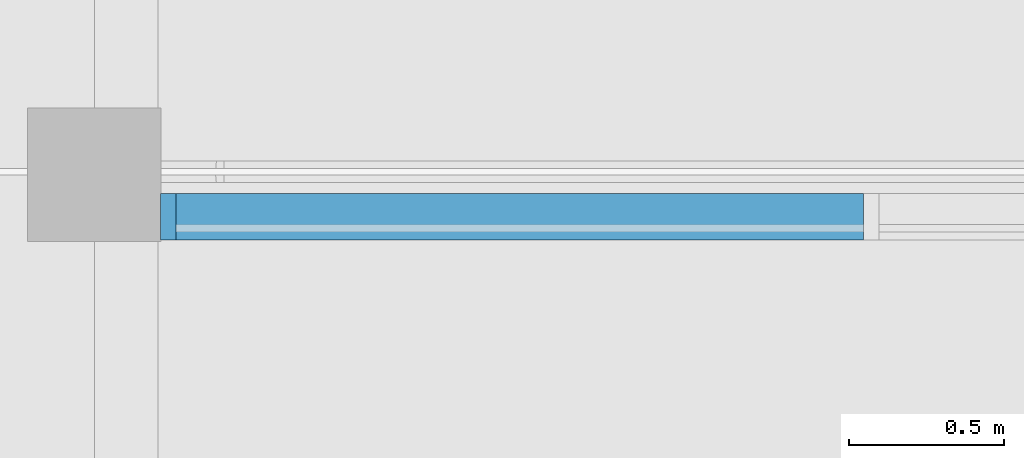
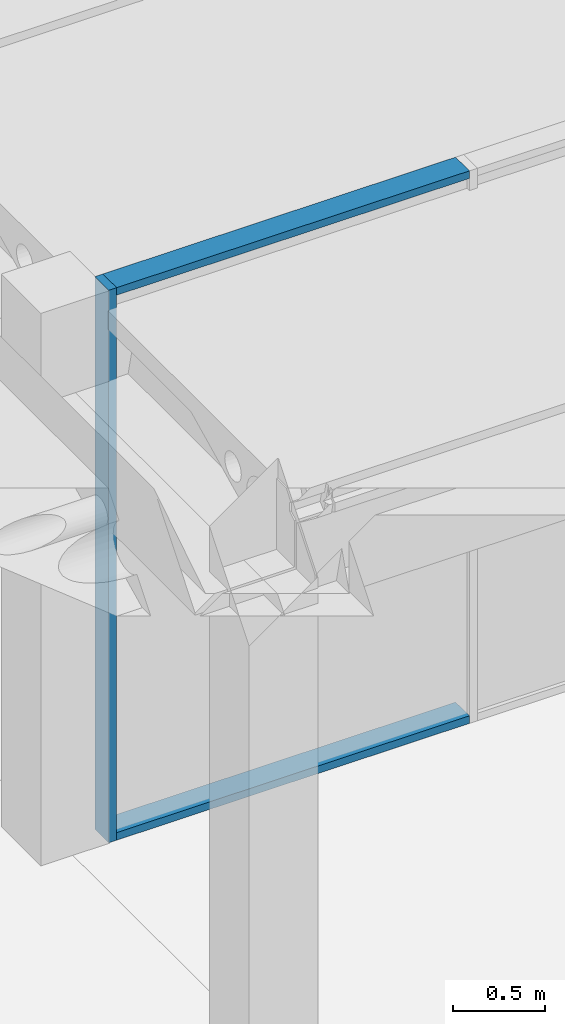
# One storey, part 5 of 25: 3 members, 1 element without a shape of its own.
"""IFC2X3 building model written with IfcOpenShell, lengths in millimetres."""

from ifc_helpers import new_model, entity, si_unit, converted_unit, derived_unit, direction, frame, origin, origin_2d_with_axis, place, context, subcontext, project, spatial, rectangle, extrude, source, transform, mapped, material, type_object, type_shapes, element, aggregate, save


model = new_model("IFC2X3")

# Units and contexts
model_context = context("Model", 3, precision=0.01, world=origin(), true_north=direction((6.12303176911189e-17, 1.0)))
body_context = subcontext(model_context, "Body", "Model", "MODEL_VIEW")
ifc_project = project(units=[si_unit("LENGTHUNIT", "METRE", prefix="MILLI"), si_unit("AREAUNIT", "SQUARE_METRE"), si_unit("VOLUMEUNIT", "CUBIC_METRE"), converted_unit("PLANEANGLEUNIT", "DEGREE", entity("IfcRatioMeasure", 0.0174532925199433), si_unit("PLANEANGLEUNIT", "RADIAN"), dimensions=[0, 0, 0, 0, 0, 0, 0]), si_unit("MASSUNIT", "GRAM", prefix="KILO"), derived_unit("MASSDENSITYUNIT", [(si_unit("MASSUNIT", "GRAM", prefix="KILO"), 1), (si_unit("LENGTHUNIT", "METRE"), -3)]), derived_unit("MOMENTOFINERTIAUNIT", [(si_unit("LENGTHUNIT", "METRE"), 4)]), si_unit("TIMEUNIT", "SECOND"), si_unit("FREQUENCYUNIT", "HERTZ"), si_unit("THERMODYNAMICTEMPERATUREUNIT", "DEGREE_CELSIUS"), derived_unit("THERMALTRANSMITTANCEUNIT", [(si_unit("MASSUNIT", "GRAM", prefix="KILO"), 1), (si_unit("THERMODYNAMICTEMPERATUREUNIT", "KELVIN"), -1), (si_unit("TIMEUNIT", "SECOND"), -3)]), derived_unit("VOLUMETRICFLOWRATEUNIT", [(si_unit("LENGTHUNIT", "METRE"), 3), (si_unit("TIMEUNIT", "SECOND"), -1)]), si_unit("ELECTRICCURRENTUNIT", "AMPERE"), si_unit("ELECTRICVOLTAGEUNIT", "VOLT"), si_unit("POWERUNIT", "WATT"), si_unit("FORCEUNIT", "NEWTON", prefix="KILO"), si_unit("ILLUMINANCEUNIT", "LUX"), si_unit("LUMINOUSFLUXUNIT", "LUMEN"), si_unit("LUMINOUSINTENSITYUNIT", "CANDELA"), derived_unit("USERDEFINED", [(si_unit("MASSUNIT", "GRAM", prefix="KILO"), -1), (si_unit("LENGTHUNIT", "METRE"), -2), (si_unit("TIMEUNIT", "SECOND"), 3), (si_unit("LUMINOUSFLUXUNIT", "LUMEN"), 1)]), derived_unit("LINEARVELOCITYUNIT", [(si_unit("LENGTHUNIT", "METRE"), 1), (si_unit("TIMEUNIT", "SECOND"), -1)]), si_unit("PRESSUREUNIT", "PASCAL"), derived_unit("USERDEFINED", [(si_unit("LENGTHUNIT", "METRE"), -2), (si_unit("MASSUNIT", "GRAM", prefix="KILO"), 1), (si_unit("TIMEUNIT", "SECOND"), -2)]), derived_unit("LINEARFORCEUNIT", [(si_unit("MASSUNIT", "GRAM", prefix="KILO"), 1), (si_unit("LENGTHUNIT", "METRE"), 1), (si_unit("TIMEUNIT", "SECOND"), -2), (si_unit("LENGTHUNIT", "METRE"), -1)]), derived_unit("PLANARFORCEUNIT", [(si_unit("MASSUNIT", "GRAM", prefix="KILO"), 1), (si_unit("LENGTHUNIT", "METRE"), 1), (si_unit("TIMEUNIT", "SECOND"), -2), (si_unit("LENGTHUNIT", "METRE"), -2)])], contexts=[model_context])

# Site, building, storey
site_placement = place(None, frame((10627.5135316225, 21939.0796949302, 0.0)))
site = spatial("IfcSite", under=ifc_project, at=site_placement, Name="Default", CompositionType="ELEMENT")
building_placement = place(site_placement, origin())
building = spatial("IfcBuilding", under=site, at=building_placement, CompositionType="ELEMENT")
storey_placement = place(building_placement, origin())
storey = spatial("IfcBuildingStorey", under=building, at=storey_placement, Name="RDC", CompositionType="ELEMENT", Elevation=0.0)

# Curtain wall, members
curtain_wall_type = type_object("IfcCurtainWallType", Name="Curtain Wall:Curtain_Wall-Empty 2", PredefinedType="NOTDEFINED")
curtain_wall_placement = place(storey_placement, origin())
curtain_wall = element("IfcCurtainWall", 1, at=curtain_wall_placement, inside=storey, type_object=curtain_wall_type, Name="Curtain Wall:Curtain_Wall-Empty 2", ObjectType="Curtain Wall:Curtain_Wall-Empty 2")
ifc_material = material(Name="Aluminium")
member_type_1 = type_object("IfcMemberType", Name="Rectangular Mullion:50x150mm", PredefinedType="MULLION", material=ifc_material)
shared_shape_1 = source(origin(), body_context, "Body", "SweptSolid", [
    extrude(rectangle(XDim=150.0, YDim=50.0, at=origin_2d_with_axis()), frame((-25.0, 0.0, -2210.0), z_axis=(0.0, 0.0, 1.0), x_axis=(0.0, -1.0, 0.0)), (0.0, 0.0, 1.0), 2210.0000003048),
])
type_shapes(member_type_1, [shared_shape_1])
member_1_placement = place(storey_placement, frame((14435.4864686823, -10774.0796949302, 3660.0), z_axis=(1.0, 0.0, 0.0), x_axis=(0.0, 0.0, 1.0)))
member_1 = element("IfcMember", 2, at=member_1_placement, type_object=member_type_1, material=ifc_material, Name="Rectangular Mullion:50x150mm", ObjectType="Rectangular Mullion:50x150mm", context=body_context, shape_type="MappedRepresentation", body=[
    mapped(shared_shape_1, transform((0.0, 0.0, 0.0), scale=1.0)),
])
member_type_2 = type_object("IfcMemberType", Name="Rectangular Mullion:50x150mm", PredefinedType="MULLION", material=ifc_material)
shared_shape_2 = source(origin(), body_context, "Body", "SweptSolid", [
    extrude(rectangle(XDim=150.0, YDim=50.0, at=origin_2d_with_axis()), frame((-25.0, 0.0, -2210.0), z_axis=(0.0, 0.0, 1.0), x_axis=(0.0, -1.0, 0.0)), (0.0, 0.0, 1.0), 2210.0000003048),
])
type_shapes(member_type_2, [shared_shape_2])
member_2_placement = place(storey_placement, frame((12225.4864683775, -10774.0796949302, 0.0), z_axis=(-1.0, 0.0, 0.0), x_axis=(0.0, 0.0, -1.0)))
member_2 = element("IfcMember", 3, at=member_2_placement, type_object=member_type_2, material=ifc_material, Name="Rectangular Mullion:50x150mm", ObjectType="Rectangular Mullion:50x150mm", context=body_context, shape_type="MappedRepresentation", body=[
    mapped(shared_shape_2, transform((0.0, 0.0, 0.0), scale=1.0)),
])
member_type_3 = type_object("IfcMemberType", Name="Rectangular Mullion:50x150mm", PredefinedType="MULLION", material=ifc_material)
shared_shape_3 = source(origin(), body_context, "Body", "SweptSolid", [
    extrude(rectangle(XDim=150.0, YDim=50.0, at=origin_2d_with_axis()), frame((-25.0, 0.0, -3660.0), z_axis=(0.0, 0.0, 1.0), x_axis=(0.0, -1.0, 0.0)), (0.0, 0.0, 1.0), 3660.0),
])
type_shapes(member_type_3, [shared_shape_3])
member_3_placement = place(storey_placement, frame((12175.4864683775, -10774.0796949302, 3660.0), z_axis=(0.0, 0.0, 1.0), x_axis=(-1.0, 0.0, 0.0)))
member_3 = element("IfcMember", 4, at=member_3_placement, type_object=member_type_3, material=ifc_material, Name="Rectangular Mullion:50x150mm", ObjectType="Rectangular Mullion:50x150mm", context=body_context, shape_type="MappedRepresentation", body=[
    mapped(shared_shape_3, transform((0.0, 0.0, 0.0), scale=1.0)),
])
aggregate(curtain_wall, [member_1, member_2, member_3])

save(model, "model.ifc")
